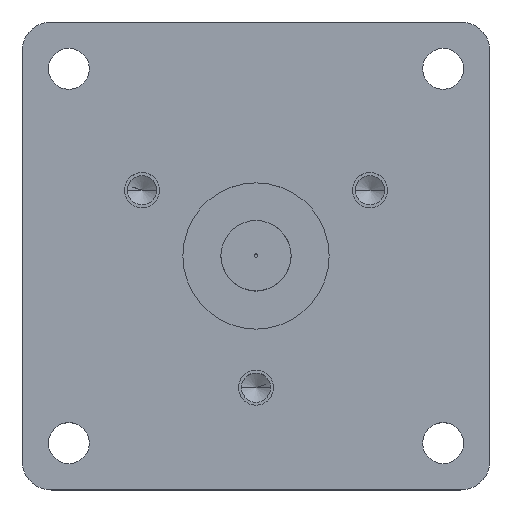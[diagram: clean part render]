
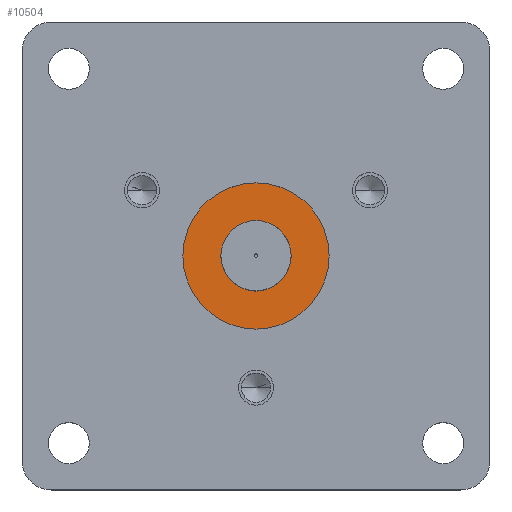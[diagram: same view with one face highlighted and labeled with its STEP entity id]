
A CAD part, top view. The second image highlights one B-rep face of the part: STEP entity #10504.
In plain terms, the highlighted planar face has unit normal (0, 0, 1).
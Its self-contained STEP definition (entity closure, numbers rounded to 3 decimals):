
#228 = DIRECTION ( 'NONE',  ( 0., 0., 1. ) ) ;
#1149 = CARTESIAN_POINT ( 'NONE',  ( 12.5, 0., 0. ) ) ;
#1431 = CARTESIAN_POINT ( 'NONE',  ( 0., 0., 0. ) ) ;
#1692 = FACE_OUTER_BOUND ( 'NONE', #10743, .T. ) ;
#1741 = VERTEX_POINT ( 'NONE', #4232 ) ;
#2645 = DIRECTION ( 'NONE',  ( 0., 0., 1. ) ) ;
#2909 = CARTESIAN_POINT ( 'NONE',  ( 0., 0., 0. ) ) ;
#3082 = DIRECTION ( 'NONE',  ( 0., 0., 1. ) ) ;
#4232 = CARTESIAN_POINT ( 'NONE',  ( 6., 0., 0. ) ) ;
#4641 = CIRCLE ( 'NONE', #13150, 12.5 ) ;
#4803 = ORIENTED_EDGE ( 'NONE', *, *, #10988, .T. ) ;
#5310 = FACE_BOUND ( 'NONE', #5324, .T. ) ;
#5324 = EDGE_LOOP ( 'NONE', ( #7824, #5635 ) ) ;
#5635 = ORIENTED_EDGE ( 'NONE', *, *, #15523, .F. ) ;
#5642 = DIRECTION ( 'NONE',  ( 1., 0., 0. ) ) ;
#5754 = DIRECTION ( 'NONE',  ( 0., 0., 1. ) ) ;
#5787 = CIRCLE ( 'NONE', #6947, 6. ) ;
#6162 = VERTEX_POINT ( 'NONE', #1149 ) ;
#6487 = DIRECTION ( 'NONE',  ( 1., 0., 0. ) ) ;
#6785 = CIRCLE ( 'NONE', #11026, 6. ) ;
#6947 = AXIS2_PLACEMENT_3D ( 'NONE', #9213, #2645, #6487 ) ;
#7824 = ORIENTED_EDGE ( 'NONE', *, *, #11025, .F. ) ;
#8196 = DIRECTION ( 'NONE',  ( 0., 0., 1. ) ) ;
#8251 = CARTESIAN_POINT ( 'NONE',  ( -6., 0., 0. ) ) ;
#9213 = CARTESIAN_POINT ( 'NONE',  ( 0., 0., 0. ) ) ;
#9587 = PLANE ( 'NONE',  #16319 ) ;
#10504 = ADVANCED_FACE ( 'NONE', ( #5310, #1692 ), #9587, .T. ) ;
#10743 = EDGE_LOOP ( 'NONE', ( #4803, #14984 ) ) ;
#10771 = CARTESIAN_POINT ( 'NONE',  ( -12.5, 0., 0. ) ) ;
#10833 = CARTESIAN_POINT ( 'NONE',  ( 0., 0., 0. ) ) ;
#10916 = VERTEX_POINT ( 'NONE', #8251 ) ;
#10988 = EDGE_CURVE ( 'NONE', #6162, #12496, #4641, .T. ) ;
#11025 = EDGE_CURVE ( 'NONE', #1741, #10916, #6785, .T. ) ;
#11026 = AXIS2_PLACEMENT_3D ( 'NONE', #11103, #3082, #11330 ) ;
#11103 = CARTESIAN_POINT ( 'NONE',  ( 0., 0., 0. ) ) ;
#11287 = CIRCLE ( 'NONE', #15986, 12.5 ) ;
#11330 = DIRECTION ( 'NONE',  ( 1., 0., 0. ) ) ;
#12496 = VERTEX_POINT ( 'NONE', #10771 ) ;
#12908 = EDGE_CURVE ( 'NONE', #12496, #6162, #11287, .T. ) ;
#13150 = AXIS2_PLACEMENT_3D ( 'NONE', #10833, #8196, #5642 ) ;
#13635 = DIRECTION ( 'NONE',  ( 1., 0., 0. ) ) ;
#14984 = ORIENTED_EDGE ( 'NONE', *, *, #12908, .T. ) ;
#15523 = EDGE_CURVE ( 'NONE', #10916, #1741, #5787, .T. ) ;
#15986 = AXIS2_PLACEMENT_3D ( 'NONE', #1431, #5754, #16181 ) ;
#16181 = DIRECTION ( 'NONE',  ( 1., 0., 0. ) ) ;
#16319 = AXIS2_PLACEMENT_3D ( 'NONE', #2909, #228, #13635 ) ;
